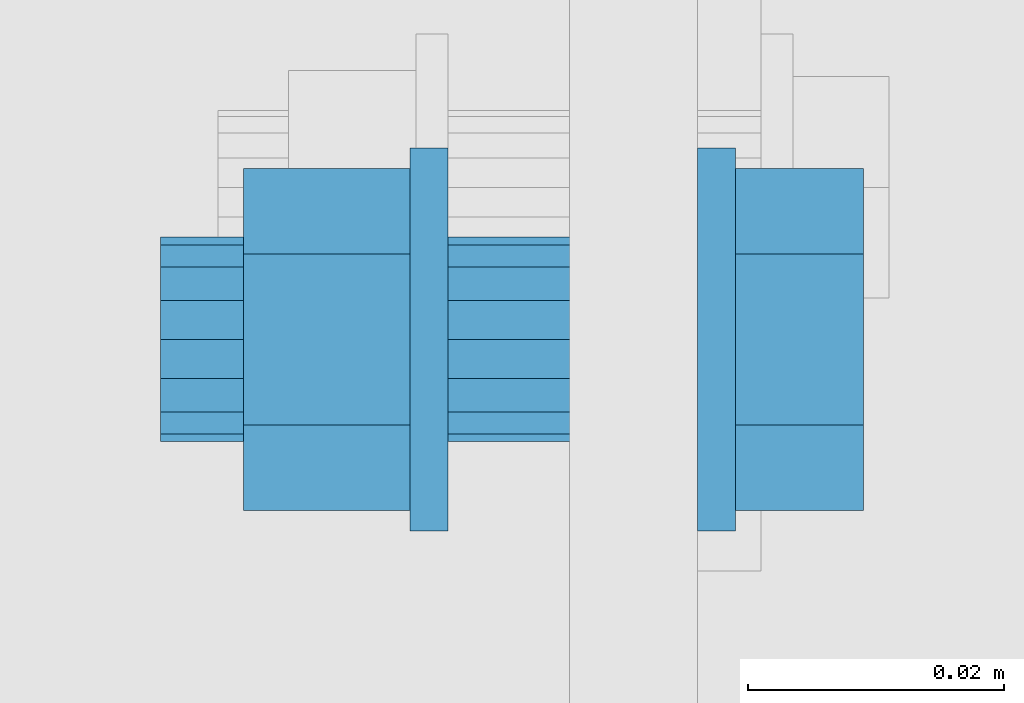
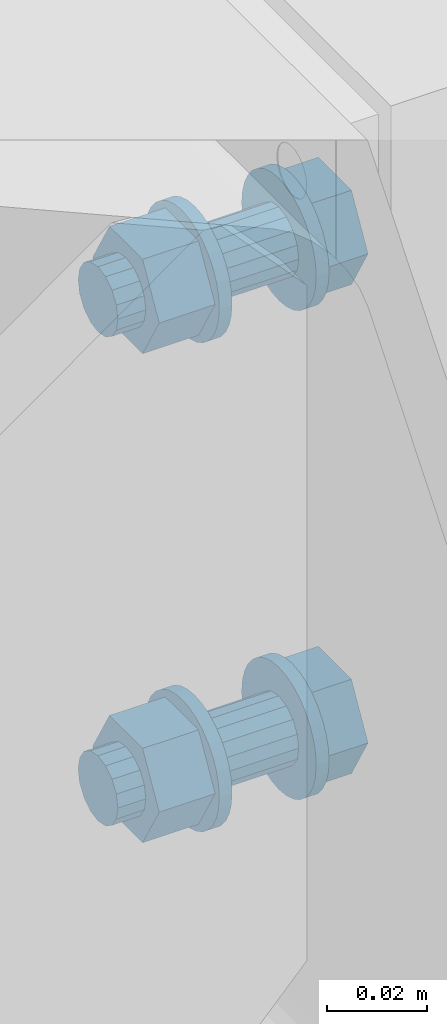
# One storey, part 354 of 821: 1 mechanical fastener.
"""IFC2X3 building model written with IfcOpenShell, lengths in millimetres."""

from ifc_helpers import new_model, entity, si_unit, converted_unit, origin_with_axes, place, context, project, spatial, faceted_brep, element, save


model = new_model("IFC2X3")

# Units and contexts
model_context = context("Model", 3, precision=1e-09, world=origin_with_axes())
ifc_project = project(units=[si_unit("LENGTHUNIT", "METRE", prefix="MILLI"), si_unit("AREAUNIT", "SQUARE_METRE"), si_unit("VOLUMEUNIT", "CUBIC_METRE"), converted_unit("PLANEANGLEUNIT", "DEGREE", entity("IfcPlaneAngleMeasure", 0.01745329), si_unit("PLANEANGLEUNIT", "RADIAN"), dimensions=[0, 0, 0, 0, 0, 0, 0])], contexts=[model_context])

# Site, building, storey
site_placement = place(None, origin_with_axes())
site = spatial("IfcSite", under=ifc_project, at=site_placement, Name="Cnopf'sche Kinderklinik", CompositionType="ELEMENT")
building_placement = place(site_placement, origin_with_axes())
building = spatial("IfcBuilding", under=site, at=building_placement, Name="Struktur 1", CompositionType="ELEMENT")
storey_placement = place(building_placement, origin_with_axes())
storey = spatial("IfcBuildingStorey", under=building, at=storey_placement, Name="Default Storey", CompositionType="ELEMENT", Elevation=0.0)

# Mechanical fastener
mechanical_fastener_placement = place(None, origin_with_axes())
element("IfcMechanicalFastener", 1, at=mechanical_fastener_placement, inside=storey, ObjectType="Bolt#2", NominalDiameter=16.0, NominalLength=45.0, context=model_context, shape_type="Brep", body=[
    faceted_brep([(3331.713402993, 7351.736971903, 9877.0), (3334.713402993, 7351.736971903, 9877.0), (3334.713402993, 7348.810617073, 9877.288220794), (3331.713402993, 7348.810617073, 9877.288220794), (3334.713402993, 7345.996720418, 9878.141807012), (3331.713402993, 7345.996720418, 9878.141807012), (3334.713402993, 7343.403418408, 9879.527955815), (3331.713402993, 7343.403418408, 9879.527955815), (3334.713402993, 7341.130370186, 9881.393398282), (3331.713402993, 7341.130370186, 9881.393398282), (3334.713402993, 7339.264927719, 9883.666446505), (3331.713402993, 7339.264927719, 9883.666446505), (3334.713402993, 7337.878778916, 9886.259748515), (3331.713402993, 7337.878778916, 9886.259748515), (3334.713402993, 7337.025192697, 9889.07364517), (3331.713402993, 7337.025192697, 9889.07364517), (3334.713402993, 7336.736971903, 9892.0), (3331.713402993, 7336.736971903, 9892.0), (3334.713402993, 7337.025192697, 9894.92635483), (3331.713402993, 7337.025192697, 9894.92635483), (3334.713402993, 7337.878778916, 9897.740251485), (3331.713402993, 7337.878778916, 9897.740251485), (3334.713402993, 7339.264927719, 9900.333553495), (3331.713402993, 7339.264927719, 9900.333553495), (3334.713402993, 7341.130370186, 9902.606601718), (3331.713402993, 7341.130370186, 9902.606601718), (3334.713402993, 7343.403418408, 9904.472044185), (3331.713402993, 7343.403418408, 9904.472044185), (3334.713402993, 7345.996720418, 9905.858192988), (3331.713402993, 7345.996720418, 9905.858192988), (3334.713402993, 7348.810617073, 9906.711779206), (3331.713402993, 7348.810617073, 9906.711779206), (3334.713402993, 7351.736971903, 9907.0), (3331.713402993, 7351.736971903, 9907.0), (3334.713402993, 7354.663326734, 9906.711779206), (3331.713402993, 7354.663326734, 9906.711779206), (3334.713402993, 7357.477223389, 9905.858192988), (3331.713402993, 7357.477223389, 9905.858192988), (3334.713402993, 7360.070525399, 9904.472044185), (3331.713402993, 7360.070525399, 9904.472044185), (3334.713402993, 7362.343573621, 9902.606601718), (3331.713402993, 7362.343573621, 9902.606601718), (3334.713402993, 7364.209016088, 9900.333553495), (3331.713402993, 7364.209016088, 9900.333553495), (3334.713402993, 7365.595164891, 9897.740251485), (3331.713402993, 7365.595164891, 9897.740251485), (3334.713402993, 7366.448751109, 9894.92635483), (3331.713402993, 7366.448751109, 9894.92635483), (3334.713402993, 7366.736971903, 9892.0), (3331.713402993, 7366.736971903, 9892.0), (3334.713402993, 7366.448751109, 9889.07364517), (3331.713402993, 7366.448751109, 9889.07364517), (3334.713402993, 7365.595164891, 9886.259748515), (3331.713402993, 7365.595164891, 9886.259748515), (3334.713402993, 7364.209016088, 9883.666446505), (3331.713402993, 7364.209016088, 9883.666446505), (3334.713402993, 7362.343573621, 9881.393398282), (3331.713402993, 7362.343573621, 9881.393398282), (3334.713402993, 7360.070525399, 9879.527955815), (3331.713402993, 7360.070525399, 9879.527955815), (3334.713402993, 7357.477223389, 9878.141807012), (3331.713402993, 7357.477223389, 9878.141807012), (3334.713402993, 7354.663326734, 9877.288220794), (3331.713402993, 7354.663326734, 9877.288220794)], [[[0, 1, 2, 3]], [[3, 2, 4, 5]], [[5, 4, 6, 7]], [[7, 6, 8, 9]], [[9, 8, 10, 11]], [[11, 10, 12, 13]], [[13, 12, 14, 15]], [[15, 14, 16, 17]], [[17, 16, 18, 19]], [[19, 18, 20, 21]], [[21, 20, 22, 23]], [[23, 22, 24, 25]], [[25, 24, 26, 27]], [[27, 26, 28, 29]], [[29, 28, 30, 31]], [[31, 30, 32, 33]], [[33, 32, 34, 35]], [[35, 34, 36, 37]], [[37, 36, 38, 39]], [[39, 38, 40, 41]], [[41, 40, 42, 43]], [[43, 42, 44, 45]], [[45, 44, 46, 47]], [[47, 46, 48, 49]], [[49, 48, 50, 51]], [[51, 50, 52, 53]], [[53, 52, 54, 55]], [[55, 54, 56, 57]], [[57, 56, 58, 59]], [[59, 58, 60, 61]], [[61, 60, 62, 63]], [[63, 62, 1, 0]], [[2, 1, 62, 60, 58, 56, 54, 52, 50, 48, 46, 44, 42, 40, 38, 36, 34, 32, 30, 28, 26, 24, 22, 20, 18, 16, 14, 12, 10, 8, 6, 4]], [[63, 0, 3, 5, 7, 9, 11, 13, 15, 17, 19, 21, 23, 25, 27, 29, 31, 33, 35, 37, 39, 41, 43, 45, 47, 49, 51, 53, 55, 57, 59, 61]]]),
    faceted_brep([(3331.713402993, 7351.736971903, 9757.0), (3334.713402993, 7351.736971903, 9757.0), (3334.713402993, 7348.810617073, 9757.288220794), (3331.713402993, 7348.810617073, 9757.288220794), (3334.713402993, 7345.996720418, 9758.141807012), (3331.713402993, 7345.996720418, 9758.141807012), (3334.713402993, 7343.403418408, 9759.527955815), (3331.713402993, 7343.403418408, 9759.527955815), (3334.713402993, 7341.130370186, 9761.393398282), (3331.713402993, 7341.130370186, 9761.393398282), (3334.713402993, 7339.264927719, 9763.666446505), (3331.713402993, 7339.264927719, 9763.666446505), (3334.713402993, 7337.878778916, 9766.259748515), (3331.713402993, 7337.878778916, 9766.259748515), (3334.713402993, 7337.025192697, 9769.07364517), (3331.713402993, 7337.025192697, 9769.07364517), (3334.713402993, 7336.736971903, 9772.0), (3331.713402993, 7336.736971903, 9772.0), (3334.713402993, 7337.025192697, 9774.92635483), (3331.713402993, 7337.025192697, 9774.92635483), (3334.713402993, 7337.878778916, 9777.740251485), (3331.713402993, 7337.878778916, 9777.740251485), (3334.713402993, 7339.264927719, 9780.333553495), (3331.713402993, 7339.264927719, 9780.333553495), (3334.713402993, 7341.130370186, 9782.606601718), (3331.713402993, 7341.130370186, 9782.606601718), (3334.713402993, 7343.403418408, 9784.472044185), (3331.713402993, 7343.403418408, 9784.472044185), (3334.713402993, 7345.996720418, 9785.858192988), (3331.713402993, 7345.996720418, 9785.858192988), (3334.713402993, 7348.810617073, 9786.711779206), (3331.713402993, 7348.810617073, 9786.711779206), (3334.713402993, 7351.736971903, 9787.0), (3331.713402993, 7351.736971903, 9787.0), (3334.713402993, 7354.663326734, 9786.711779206), (3331.713402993, 7354.663326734, 9786.711779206), (3334.713402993, 7357.477223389, 9785.858192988), (3331.713402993, 7357.477223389, 9785.858192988), (3334.713402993, 7360.070525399, 9784.472044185), (3331.713402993, 7360.070525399, 9784.472044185), (3334.713402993, 7362.343573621, 9782.606601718), (3331.713402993, 7362.343573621, 9782.606601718), (3334.713402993, 7364.209016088, 9780.333553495), (3331.713402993, 7364.209016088, 9780.333553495), (3334.713402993, 7365.595164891, 9777.740251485), (3331.713402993, 7365.595164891, 9777.740251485), (3334.713402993, 7366.448751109, 9774.92635483), (3331.713402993, 7366.448751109, 9774.92635483), (3334.713402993, 7366.736971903, 9772.0), (3331.713402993, 7366.736971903, 9772.0), (3334.713402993, 7366.448751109, 9769.07364517), (3331.713402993, 7366.448751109, 9769.07364517), (3334.713402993, 7365.595164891, 9766.259748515), (3331.713402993, 7365.595164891, 9766.259748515), (3334.713402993, 7364.209016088, 9763.666446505), (3331.713402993, 7364.209016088, 9763.666446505), (3334.713402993, 7362.343573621, 9761.393398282), (3331.713402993, 7362.343573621, 9761.393398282), (3334.713402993, 7360.070525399, 9759.527955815), (3331.713402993, 7360.070525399, 9759.527955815), (3334.713402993, 7357.477223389, 9758.141807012), (3331.713402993, 7357.477223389, 9758.141807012), (3334.713402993, 7354.663326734, 9757.288220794), (3331.713402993, 7354.663326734, 9757.288220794)], [[[0, 1, 2, 3]], [[3, 2, 4, 5]], [[5, 4, 6, 7]], [[7, 6, 8, 9]], [[9, 8, 10, 11]], [[11, 10, 12, 13]], [[13, 12, 14, 15]], [[15, 14, 16, 17]], [[17, 16, 18, 19]], [[19, 18, 20, 21]], [[21, 20, 22, 23]], [[23, 22, 24, 25]], [[25, 24, 26, 27]], [[27, 26, 28, 29]], [[29, 28, 30, 31]], [[31, 30, 32, 33]], [[33, 32, 34, 35]], [[35, 34, 36, 37]], [[37, 36, 38, 39]], [[39, 38, 40, 41]], [[41, 40, 42, 43]], [[43, 42, 44, 45]], [[45, 44, 46, 47]], [[47, 46, 48, 49]], [[49, 48, 50, 51]], [[51, 50, 52, 53]], [[53, 52, 54, 55]], [[55, 54, 56, 57]], [[57, 56, 58, 59]], [[59, 58, 60, 61]], [[61, 60, 62, 63]], [[63, 62, 1, 0]], [[2, 1, 62, 60, 58, 56, 54, 52, 50, 48, 46, 44, 42, 40, 38, 36, 34, 32, 30, 28, 26, 24, 22, 20, 18, 16, 14, 12, 10, 8, 6, 4]], [[63, 0, 3, 5, 7, 9, 11, 13, 15, 17, 19, 21, 23, 25, 27, 29, 31, 33, 35, 37, 39, 41, 43, 45, 47, 49, 51, 53, 55, 57, 59, 61]]]),
    faceted_brep([(3344.713402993, 7345.049471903, 9903.583089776), (3334.713402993, 7345.049471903, 9903.583089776), (3334.713402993, 7338.361971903, 9892.0), (3344.713402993, 7338.361971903, 9892.0), (3334.713402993, 7345.049471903, 9880.416910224), (3344.713402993, 7345.049471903, 9880.416910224), (3334.713402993, 7358.424471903, 9880.416910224), (3344.713402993, 7358.424471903, 9880.416910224), (3334.713402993, 7365.111971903, 9892.0), (3344.713402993, 7365.111971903, 9892.0), (3334.713402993, 7358.424471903, 9903.583089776), (3344.713402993, 7358.424471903, 9903.583089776)], [[[0, 1, 2, 3]], [[3, 2, 4, 5]], [[5, 4, 6, 7]], [[7, 6, 8, 9]], [[9, 8, 10, 11]], [[11, 10, 1, 0]], [[3, 5, 7, 9, 11, 0]], [[2, 1, 10, 8, 6, 4]]]),
    faceted_brep([(3344.713402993, 7345.049471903, 9783.583089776), (3334.713402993, 7345.049471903, 9783.583089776), (3334.713402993, 7338.361971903, 9772.0), (3344.713402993, 7338.361971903, 9772.0), (3334.713402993, 7345.049471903, 9760.416910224), (3344.713402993, 7345.049471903, 9760.416910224), (3334.713402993, 7358.424471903, 9760.416910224), (3344.713402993, 7358.424471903, 9760.416910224), (3334.713402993, 7365.111971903, 9772.0), (3344.713402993, 7365.111971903, 9772.0), (3334.713402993, 7358.424471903, 9783.583089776), (3344.713402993, 7358.424471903, 9783.583089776)], [[[0, 1, 2, 3]], [[3, 2, 4, 5]], [[5, 4, 6, 7]], [[7, 6, 8, 9]], [[9, 8, 10, 11]], [[11, 10, 1, 0]], [[3, 5, 7, 9, 11, 0]], [[2, 1, 10, 8, 6, 4]]]),
    faceted_brep([(3312.213402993, 7351.736971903, 9884.0), (3331.713402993, 7351.736971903, 9884.0), (3331.713402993, 7348.675504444, 9884.60896374), (3312.213402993, 7348.675504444, 9884.60896374), (3331.713402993, 7346.080117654, 9886.343145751), (3312.213402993, 7346.080117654, 9886.343145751), (3331.713402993, 7344.345935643, 9888.938532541), (3312.213402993, 7344.345935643, 9888.938532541), (3331.713402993, 7343.736971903, 9892.0), (3312.213402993, 7343.736971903, 9892.0), (3331.713402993, 7344.345935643, 9895.061467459), (3312.213402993, 7344.345935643, 9895.061467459), (3331.713402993, 7346.080117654, 9897.656854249), (3312.213402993, 7346.080117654, 9897.656854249), (3331.713402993, 7348.675504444, 9899.39103626), (3312.213402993, 7348.675504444, 9899.39103626), (3331.713402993, 7351.736971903, 9900.0), (3312.213402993, 7351.736971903, 9900.0), (3331.713402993, 7354.798439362, 9899.39103626), (3312.213402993, 7354.798439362, 9899.39103626), (3331.713402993, 7357.393826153, 9897.656854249), (3312.213402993, 7357.393826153, 9897.656854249), (3331.713402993, 7359.128008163, 9895.061467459), (3312.213402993, 7359.128008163, 9895.061467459), (3331.713402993, 7359.736971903, 9892.0), (3312.213402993, 7359.736971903, 9892.0), (3331.713402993, 7359.128008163, 9888.938532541), (3312.213402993, 7359.128008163, 9888.938532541), (3331.713402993, 7357.393826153, 9886.343145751), (3312.213402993, 7357.393826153, 9886.343145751), (3331.713402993, 7354.798439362, 9884.60896374), (3312.213402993, 7354.798439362, 9884.60896374)], [[[0, 1, 2, 3]], [[3, 2, 4, 5]], [[5, 4, 6, 7]], [[7, 6, 8, 9]], [[9, 8, 10, 11]], [[11, 10, 12, 13]], [[13, 12, 14, 15]], [[15, 14, 16, 17]], [[17, 16, 18, 19]], [[19, 18, 20, 21]], [[21, 20, 22, 23]], [[23, 22, 24, 25]], [[25, 24, 26, 27]], [[27, 26, 28, 29]], [[29, 28, 30, 31]], [[31, 30, 1, 0]], [[2, 1, 30, 28, 26, 24, 22, 20, 18, 16, 14, 12, 10, 8, 6, 4]], [[31, 0, 3, 5, 7, 9, 11, 13, 15, 17, 19, 21, 23, 25, 27, 29]]]),
    faceted_brep([(3312.213402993, 7351.736971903, 9764.0), (3331.713402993, 7351.736971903, 9764.0), (3331.713402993, 7348.675504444, 9764.60896374), (3312.213402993, 7348.675504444, 9764.60896374), (3331.713402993, 7346.080117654, 9766.343145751), (3312.213402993, 7346.080117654, 9766.343145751), (3331.713402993, 7344.345935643, 9768.938532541), (3312.213402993, 7344.345935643, 9768.938532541), (3331.713402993, 7343.736971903, 9772.0), (3312.213402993, 7343.736971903, 9772.0), (3331.713402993, 7344.345935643, 9775.061467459), (3312.213402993, 7344.345935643, 9775.061467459), (3331.713402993, 7346.080117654, 9777.656854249), (3312.213402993, 7346.080117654, 9777.656854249), (3331.713402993, 7348.675504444, 9779.39103626), (3312.213402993, 7348.675504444, 9779.39103626), (3331.713402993, 7351.736971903, 9780.0), (3312.213402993, 7351.736971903, 9780.0), (3331.713402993, 7354.798439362, 9779.39103626), (3312.213402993, 7354.798439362, 9779.39103626), (3331.713402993, 7357.393826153, 9777.656854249), (3312.213402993, 7357.393826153, 9777.656854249), (3331.713402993, 7359.128008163, 9775.061467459), (3312.213402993, 7359.128008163, 9775.061467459), (3331.713402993, 7359.736971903, 9772.0), (3312.213402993, 7359.736971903, 9772.0), (3331.713402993, 7359.128008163, 9768.938532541), (3312.213402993, 7359.128008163, 9768.938532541), (3331.713402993, 7357.393826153, 9766.343145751), (3312.213402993, 7357.393826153, 9766.343145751), (3331.713402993, 7354.798439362, 9764.60896374), (3312.213402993, 7354.798439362, 9764.60896374)], [[[0, 1, 2, 3]], [[3, 2, 4, 5]], [[5, 4, 6, 7]], [[7, 6, 8, 9]], [[9, 8, 10, 11]], [[11, 10, 12, 13]], [[13, 12, 14, 15]], [[15, 14, 16, 17]], [[17, 16, 18, 19]], [[19, 18, 20, 21]], [[21, 20, 22, 23]], [[23, 22, 24, 25]], [[25, 24, 26, 27]], [[27, 26, 28, 29]], [[29, 28, 30, 31]], [[31, 30, 1, 0]], [[2, 1, 30, 28, 26, 24, 22, 20, 18, 16, 14, 12, 10, 8, 6, 4]], [[31, 0, 3, 5, 7, 9, 11, 13, 15, 17, 19, 21, 23, 25, 27, 29]]]),
    faceted_brep([(3309.213402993, 7351.736971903, 9877.0), (3312.213402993, 7351.736971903, 9877.0), (3312.213402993, 7348.810617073, 9877.288220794), (3309.213402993, 7348.810617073, 9877.288220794), (3312.213402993, 7345.996720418, 9878.141807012), (3309.213402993, 7345.996720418, 9878.141807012), (3312.213402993, 7343.403418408, 9879.527955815), (3309.213402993, 7343.403418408, 9879.527955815), (3312.213402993, 7341.130370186, 9881.393398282), (3309.213402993, 7341.130370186, 9881.393398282), (3312.213402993, 7339.264927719, 9883.666446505), (3309.213402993, 7339.264927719, 9883.666446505), (3312.213402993, 7337.878778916, 9886.259748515), (3309.213402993, 7337.878778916, 9886.259748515), (3312.213402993, 7337.025192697, 9889.07364517), (3309.213402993, 7337.025192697, 9889.07364517), (3312.213402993, 7336.736971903, 9892.0), (3309.213402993, 7336.736971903, 9892.0), (3312.213402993, 7337.025192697, 9894.92635483), (3309.213402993, 7337.025192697, 9894.92635483), (3312.213402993, 7337.878778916, 9897.740251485), (3309.213402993, 7337.878778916, 9897.740251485), (3312.213402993, 7339.264927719, 9900.333553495), (3309.213402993, 7339.264927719, 9900.333553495), (3312.213402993, 7341.130370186, 9902.606601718), (3309.213402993, 7341.130370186, 9902.606601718), (3312.213402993, 7343.403418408, 9904.472044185), (3309.213402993, 7343.403418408, 9904.472044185), (3312.213402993, 7345.996720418, 9905.858192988), (3309.213402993, 7345.996720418, 9905.858192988), (3312.213402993, 7348.810617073, 9906.711779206), (3309.213402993, 7348.810617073, 9906.711779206), (3312.213402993, 7351.736971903, 9907.0), (3309.213402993, 7351.736971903, 9907.0), (3312.213402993, 7354.663326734, 9906.711779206), (3309.213402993, 7354.663326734, 9906.711779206), (3312.213402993, 7357.477223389, 9905.858192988), (3309.213402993, 7357.477223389, 9905.858192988), (3312.213402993, 7360.070525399, 9904.472044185), (3309.213402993, 7360.070525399, 9904.472044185), (3312.213402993, 7362.343573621, 9902.606601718), (3309.213402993, 7362.343573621, 9902.606601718), (3312.213402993, 7364.209016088, 9900.333553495), (3309.213402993, 7364.209016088, 9900.333553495), (3312.213402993, 7365.595164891, 9897.740251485), (3309.213402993, 7365.595164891, 9897.740251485), (3312.213402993, 7366.448751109, 9894.92635483), (3309.213402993, 7366.448751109, 9894.92635483), (3312.213402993, 7366.736971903, 9892.0), (3309.213402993, 7366.736971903, 9892.0), (3312.213402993, 7366.448751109, 9889.07364517), (3309.213402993, 7366.448751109, 9889.07364517), (3312.213402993, 7365.595164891, 9886.259748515), (3309.213402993, 7365.595164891, 9886.259748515), (3312.213402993, 7364.209016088, 9883.666446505), (3309.213402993, 7364.209016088, 9883.666446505), (3312.213402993, 7362.343573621, 9881.393398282), (3309.213402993, 7362.343573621, 9881.393398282), (3312.213402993, 7360.070525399, 9879.527955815), (3309.213402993, 7360.070525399, 9879.527955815), (3312.213402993, 7357.477223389, 9878.141807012), (3309.213402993, 7357.477223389, 9878.141807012), (3312.213402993, 7354.663326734, 9877.288220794), (3309.213402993, 7354.663326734, 9877.288220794)], [[[0, 1, 2, 3]], [[3, 2, 4, 5]], [[5, 4, 6, 7]], [[7, 6, 8, 9]], [[9, 8, 10, 11]], [[11, 10, 12, 13]], [[13, 12, 14, 15]], [[15, 14, 16, 17]], [[17, 16, 18, 19]], [[19, 18, 20, 21]], [[21, 20, 22, 23]], [[23, 22, 24, 25]], [[25, 24, 26, 27]], [[27, 26, 28, 29]], [[29, 28, 30, 31]], [[31, 30, 32, 33]], [[33, 32, 34, 35]], [[35, 34, 36, 37]], [[37, 36, 38, 39]], [[39, 38, 40, 41]], [[41, 40, 42, 43]], [[43, 42, 44, 45]], [[45, 44, 46, 47]], [[47, 46, 48, 49]], [[49, 48, 50, 51]], [[51, 50, 52, 53]], [[53, 52, 54, 55]], [[55, 54, 56, 57]], [[57, 56, 58, 59]], [[59, 58, 60, 61]], [[61, 60, 62, 63]], [[63, 62, 1, 0]], [[2, 1, 62, 60, 58, 56, 54, 52, 50, 48, 46, 44, 42, 40, 38, 36, 34, 32, 30, 28, 26, 24, 22, 20, 18, 16, 14, 12, 10, 8, 6, 4]], [[63, 0, 3, 5, 7, 9, 11, 13, 15, 17, 19, 21, 23, 25, 27, 29, 31, 33, 35, 37, 39, 41, 43, 45, 47, 49, 51, 53, 55, 57, 59, 61]]]),
    faceted_brep([(3309.213402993, 7351.736971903, 9757.0), (3312.213402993, 7351.736971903, 9757.0), (3312.213402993, 7348.810617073, 9757.288220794), (3309.213402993, 7348.810617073, 9757.288220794), (3312.213402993, 7345.996720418, 9758.141807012), (3309.213402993, 7345.996720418, 9758.141807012), (3312.213402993, 7343.403418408, 9759.527955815), (3309.213402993, 7343.403418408, 9759.527955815), (3312.213402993, 7341.130370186, 9761.393398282), (3309.213402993, 7341.130370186, 9761.393398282), (3312.213402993, 7339.264927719, 9763.666446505), (3309.213402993, 7339.264927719, 9763.666446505), (3312.213402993, 7337.878778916, 9766.259748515), (3309.213402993, 7337.878778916, 9766.259748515), (3312.213402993, 7337.025192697, 9769.07364517), (3309.213402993, 7337.025192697, 9769.07364517), (3312.213402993, 7336.736971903, 9772.0), (3309.213402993, 7336.736971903, 9772.0), (3312.213402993, 7337.025192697, 9774.92635483), (3309.213402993, 7337.025192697, 9774.92635483), (3312.213402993, 7337.878778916, 9777.740251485), (3309.213402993, 7337.878778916, 9777.740251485), (3312.213402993, 7339.264927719, 9780.333553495), (3309.213402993, 7339.264927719, 9780.333553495), (3312.213402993, 7341.130370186, 9782.606601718), (3309.213402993, 7341.130370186, 9782.606601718), (3312.213402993, 7343.403418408, 9784.472044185), (3309.213402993, 7343.403418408, 9784.472044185), (3312.213402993, 7345.996720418, 9785.858192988), (3309.213402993, 7345.996720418, 9785.858192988), (3312.213402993, 7348.810617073, 9786.711779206), (3309.213402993, 7348.810617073, 9786.711779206), (3312.213402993, 7351.736971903, 9787.0), (3309.213402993, 7351.736971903, 9787.0), (3312.213402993, 7354.663326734, 9786.711779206), (3309.213402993, 7354.663326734, 9786.711779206), (3312.213402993, 7357.477223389, 9785.858192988), (3309.213402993, 7357.477223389, 9785.858192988), (3312.213402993, 7360.070525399, 9784.472044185), (3309.213402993, 7360.070525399, 9784.472044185), (3312.213402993, 7362.343573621, 9782.606601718), (3309.213402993, 7362.343573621, 9782.606601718), (3312.213402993, 7364.209016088, 9780.333553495), (3309.213402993, 7364.209016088, 9780.333553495), (3312.213402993, 7365.595164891, 9777.740251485), (3309.213402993, 7365.595164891, 9777.740251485), (3312.213402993, 7366.448751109, 9774.92635483), (3309.213402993, 7366.448751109, 9774.92635483), (3312.213402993, 7366.736971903, 9772.0), (3309.213402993, 7366.736971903, 9772.0), (3312.213402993, 7366.448751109, 9769.07364517), (3309.213402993, 7366.448751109, 9769.07364517), (3312.213402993, 7365.595164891, 9766.259748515), (3309.213402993, 7365.595164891, 9766.259748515), (3312.213402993, 7364.209016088, 9763.666446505), (3309.213402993, 7364.209016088, 9763.666446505), (3312.213402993, 7362.343573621, 9761.393398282), (3309.213402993, 7362.343573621, 9761.393398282), (3312.213402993, 7360.070525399, 9759.527955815), (3309.213402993, 7360.070525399, 9759.527955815), (3312.213402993, 7357.477223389, 9758.141807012), (3309.213402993, 7357.477223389, 9758.141807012), (3312.213402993, 7354.663326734, 9757.288220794), (3309.213402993, 7354.663326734, 9757.288220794)], [[[0, 1, 2, 3]], [[3, 2, 4, 5]], [[5, 4, 6, 7]], [[7, 6, 8, 9]], [[9, 8, 10, 11]], [[11, 10, 12, 13]], [[13, 12, 14, 15]], [[15, 14, 16, 17]], [[17, 16, 18, 19]], [[19, 18, 20, 21]], [[21, 20, 22, 23]], [[23, 22, 24, 25]], [[25, 24, 26, 27]], [[27, 26, 28, 29]], [[29, 28, 30, 31]], [[31, 30, 32, 33]], [[33, 32, 34, 35]], [[35, 34, 36, 37]], [[37, 36, 38, 39]], [[39, 38, 40, 41]], [[41, 40, 42, 43]], [[43, 42, 44, 45]], [[45, 44, 46, 47]], [[47, 46, 48, 49]], [[49, 48, 50, 51]], [[51, 50, 52, 53]], [[53, 52, 54, 55]], [[55, 54, 56, 57]], [[57, 56, 58, 59]], [[59, 58, 60, 61]], [[61, 60, 62, 63]], [[63, 62, 1, 0]], [[2, 1, 62, 60, 58, 56, 54, 52, 50, 48, 46, 44, 42, 40, 38, 36, 34, 32, 30, 28, 26, 24, 22, 20, 18, 16, 14, 12, 10, 8, 6, 4]], [[63, 0, 3, 5, 7, 9, 11, 13, 15, 17, 19, 21, 23, 25, 27, 29, 31, 33, 35, 37, 39, 41, 43, 45, 47, 49, 51, 53, 55, 57, 59, 61]]]),
    faceted_brep([(3309.213402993, 7345.049471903, 9903.583089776), (3296.213402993, 7345.049471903, 9903.583089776), (3296.213402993, 7338.361971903, 9892.0), (3309.213402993, 7338.361971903, 9892.0), (3296.213402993, 7345.049471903, 9880.416910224), (3309.213402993, 7345.049471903, 9880.416910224), (3296.213402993, 7358.424471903, 9880.416910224), (3309.213402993, 7358.424471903, 9880.416910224), (3296.213402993, 7365.111971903, 9892.0), (3309.213402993, 7365.111971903, 9892.0), (3296.213402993, 7358.424471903, 9903.583089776), (3309.213402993, 7358.424471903, 9903.583089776)], [[[0, 1, 2, 3]], [[3, 2, 4, 5]], [[5, 4, 6, 7]], [[7, 6, 8, 9]], [[9, 8, 10, 11]], [[11, 10, 1, 0]], [[3, 5, 7, 9, 11, 0]], [[2, 1, 10, 8, 6, 4]]]),
    faceted_brep([(3309.213402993, 7345.049471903, 9783.583089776), (3296.213402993, 7345.049471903, 9783.583089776), (3296.213402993, 7338.361971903, 9772.0), (3309.213402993, 7338.361971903, 9772.0), (3296.213402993, 7345.049471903, 9760.416910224), (3309.213402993, 7345.049471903, 9760.416910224), (3296.213402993, 7358.424471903, 9760.416910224), (3309.213402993, 7358.424471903, 9760.416910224), (3296.213402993, 7365.111971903, 9772.0), (3309.213402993, 7365.111971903, 9772.0), (3296.213402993, 7358.424471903, 9783.583089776), (3309.213402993, 7358.424471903, 9783.583089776)], [[[0, 1, 2, 3]], [[3, 2, 4, 5]], [[5, 4, 6, 7]], [[7, 6, 8, 9]], [[9, 8, 10, 11]], [[11, 10, 1, 0]], [[3, 5, 7, 9, 11, 0]], [[2, 1, 10, 8, 6, 4]]]),
    faceted_brep([(3289.713402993, 7351.736971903, 9884.0), (3296.213402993, 7351.736971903, 9884.0), (3296.213402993, 7348.675504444, 9884.60896374), (3289.713402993, 7348.675504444, 9884.60896374), (3296.213402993, 7346.080117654, 9886.343145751), (3289.713402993, 7346.080117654, 9886.343145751), (3296.213402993, 7344.345935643, 9888.938532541), (3289.713402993, 7344.345935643, 9888.938532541), (3296.213402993, 7343.736971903, 9892.0), (3289.713402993, 7343.736971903, 9892.0), (3296.213402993, 7344.345935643, 9895.061467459), (3289.713402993, 7344.345935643, 9895.061467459), (3296.213402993, 7346.080117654, 9897.656854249), (3289.713402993, 7346.080117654, 9897.656854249), (3296.213402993, 7348.675504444, 9899.39103626), (3289.713402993, 7348.675504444, 9899.39103626), (3296.213402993, 7351.736971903, 9900.0), (3289.713402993, 7351.736971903, 9900.0), (3296.213402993, 7354.798439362, 9899.39103626), (3289.713402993, 7354.798439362, 9899.39103626), (3296.213402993, 7357.393826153, 9897.656854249), (3289.713402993, 7357.393826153, 9897.656854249), (3296.213402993, 7359.128008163, 9895.061467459), (3289.713402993, 7359.128008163, 9895.061467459), (3296.213402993, 7359.736971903, 9892.0), (3289.713402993, 7359.736971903, 9892.0), (3296.213402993, 7359.128008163, 9888.938532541), (3289.713402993, 7359.128008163, 9888.938532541), (3296.213402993, 7357.393826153, 9886.343145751), (3289.713402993, 7357.393826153, 9886.343145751), (3296.213402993, 7354.798439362, 9884.60896374), (3289.713402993, 7354.798439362, 9884.60896374)], [[[0, 1, 2, 3]], [[3, 2, 4, 5]], [[5, 4, 6, 7]], [[7, 6, 8, 9]], [[9, 8, 10, 11]], [[11, 10, 12, 13]], [[13, 12, 14, 15]], [[15, 14, 16, 17]], [[17, 16, 18, 19]], [[19, 18, 20, 21]], [[21, 20, 22, 23]], [[23, 22, 24, 25]], [[25, 24, 26, 27]], [[27, 26, 28, 29]], [[29, 28, 30, 31]], [[31, 30, 1, 0]], [[2, 1, 30, 28, 26, 24, 22, 20, 18, 16, 14, 12, 10, 8, 6, 4]], [[31, 0, 3, 5, 7, 9, 11, 13, 15, 17, 19, 21, 23, 25, 27, 29]]]),
    faceted_brep([(3289.713402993, 7351.736971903, 9764.0), (3296.213402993, 7351.736971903, 9764.0), (3296.213402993, 7348.675504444, 9764.60896374), (3289.713402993, 7348.675504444, 9764.60896374), (3296.213402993, 7346.080117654, 9766.343145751), (3289.713402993, 7346.080117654, 9766.343145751), (3296.213402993, 7344.345935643, 9768.938532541), (3289.713402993, 7344.345935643, 9768.938532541), (3296.213402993, 7343.736971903, 9772.0), (3289.713402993, 7343.736971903, 9772.0), (3296.213402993, 7344.345935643, 9775.061467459), (3289.713402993, 7344.345935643, 9775.061467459), (3296.213402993, 7346.080117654, 9777.656854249), (3289.713402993, 7346.080117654, 9777.656854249), (3296.213402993, 7348.675504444, 9779.39103626), (3289.713402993, 7348.675504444, 9779.39103626), (3296.213402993, 7351.736971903, 9780.0), (3289.713402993, 7351.736971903, 9780.0), (3296.213402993, 7354.798439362, 9779.39103626), (3289.713402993, 7354.798439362, 9779.39103626), (3296.213402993, 7357.393826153, 9777.656854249), (3289.713402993, 7357.393826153, 9777.656854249), (3296.213402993, 7359.128008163, 9775.061467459), (3289.713402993, 7359.128008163, 9775.061467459), (3296.213402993, 7359.736971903, 9772.0), (3289.713402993, 7359.736971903, 9772.0), (3296.213402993, 7359.128008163, 9768.938532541), (3289.713402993, 7359.128008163, 9768.938532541), (3296.213402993, 7357.393826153, 9766.343145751), (3289.713402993, 7357.393826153, 9766.343145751), (3296.213402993, 7354.798439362, 9764.60896374), (3289.713402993, 7354.798439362, 9764.60896374)], [[[0, 1, 2, 3]], [[3, 2, 4, 5]], [[5, 4, 6, 7]], [[7, 6, 8, 9]], [[9, 8, 10, 11]], [[11, 10, 12, 13]], [[13, 12, 14, 15]], [[15, 14, 16, 17]], [[17, 16, 18, 19]], [[19, 18, 20, 21]], [[21, 20, 22, 23]], [[23, 22, 24, 25]], [[25, 24, 26, 27]], [[27, 26, 28, 29]], [[29, 28, 30, 31]], [[31, 30, 1, 0]], [[2, 1, 30, 28, 26, 24, 22, 20, 18, 16, 14, 12, 10, 8, 6, 4]], [[31, 0, 3, 5, 7, 9, 11, 13, 15, 17, 19, 21, 23, 25, 27, 29]]]),
])

save(model, "model.ifc")
